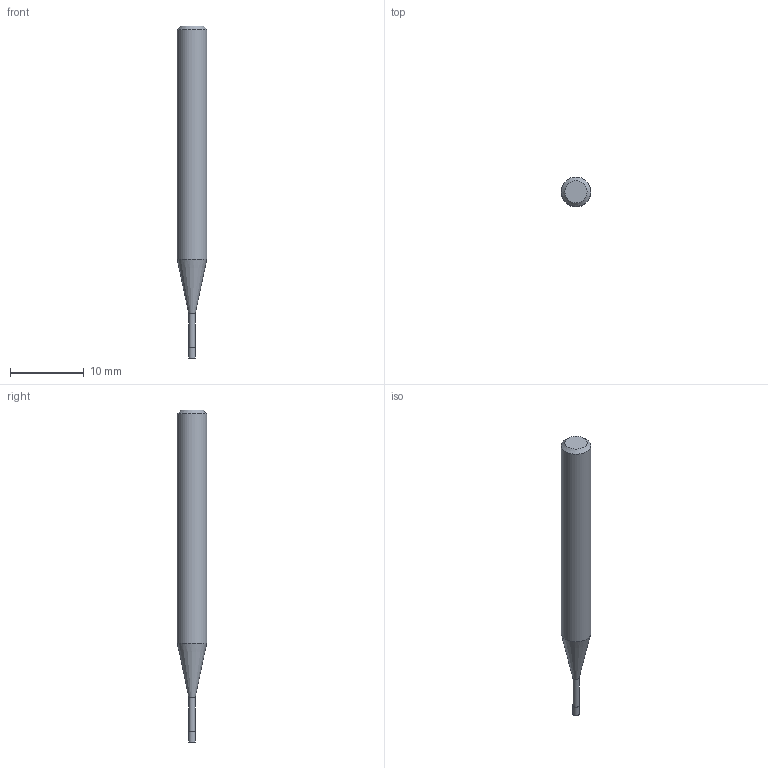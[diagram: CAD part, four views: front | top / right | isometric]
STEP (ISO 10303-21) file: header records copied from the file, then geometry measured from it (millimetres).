
FILE_DESCRIPTION((''),'2;1');
FILE_NAME('C:\Users\nsx150\AppData\Local\Temp\Mastercam 2021\17T8Q8S9EB\TEMP.step','2021-04-21T14:25:32',(''),(''),'STEP Write','Mastercam 2021 ... CNC Software, Inc.','');
FILE_SCHEMA(('AUTOMOTIVE_DESIGN'));
Length unit declared in the file: millimetre
Products named in the file (1): None
Bounding box: 4 x 4 x 45 mm (x, y, z)
Volume: 438.4 mm3; surface area: 481.7 mm2
Topology: 2 solids, 2 shells, 9 faces, 12 edges, 7 vertices
Faces by surface type: plane 4, cylinder 3, cone 2
Full cylindrical faces by diameter (mm): 0.86 x1, 0.9 x1, 4 x1
Entity records: 211 total; most frequent: DIRECTION 36, CARTESIAN_POINT 25, AXIS2_PLACEMENT_3D 18, ORIENTED_EDGE 14, EDGE_LOOP 14, STYLED_ITEM 12, ADVANCED_FACE 9, FACE_BOUND 8
